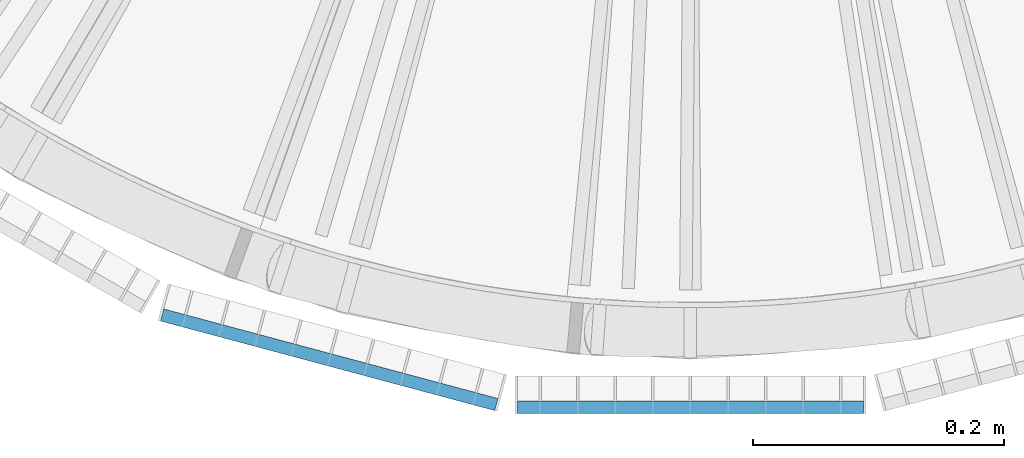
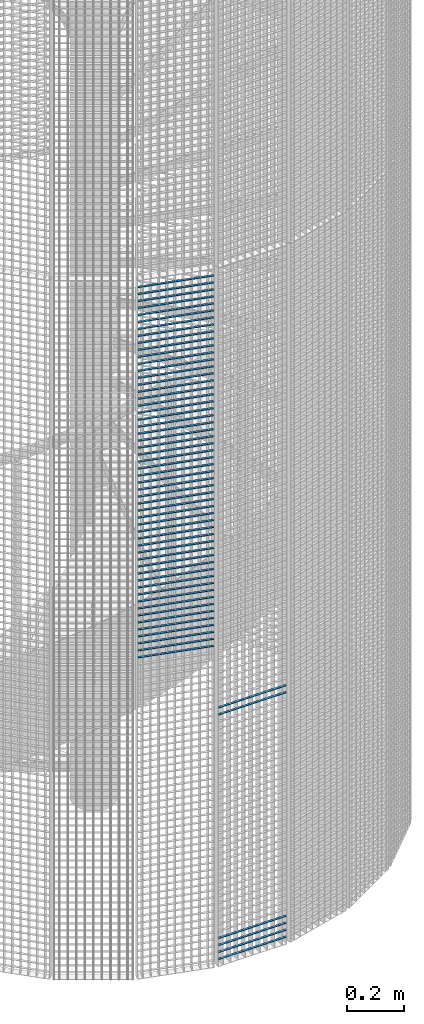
# One storey, part 169 of 1148: 60 beams, 2 elements without a shape of their own.
"""IFC2X3 building model written with IfcOpenShell, lengths in millimetres."""

from ifc_helpers import new_model, si_unit, frame, origin_with_axes, origin_2d_with_axis, place, context, subcontext, project, spatial, rectangle, extrude, material, type_object, element, aggregate, save


model = new_model("IFC2X3")

# Units and contexts
model_context = context("Model", 3, precision=1e-05, world=origin_with_axes())
body_context = subcontext(model_context, "Body", "Model", "MODEL_VIEW")
ifc_project = project(units=[si_unit("LENGTHUNIT", "METRE", prefix="MILLI"), si_unit("AREAUNIT", "SQUARE_METRE"), si_unit("VOLUMEUNIT", "CUBIC_METRE"), si_unit("MASSUNIT", "GRAM", prefix="KILO"), si_unit("TIMEUNIT", "SECOND"), si_unit("PLANEANGLEUNIT", "RADIAN"), si_unit("SOLIDANGLEUNIT", "STERADIAN"), si_unit("THERMODYNAMICTEMPERATUREUNIT", "DEGREE_CELSIUS"), si_unit("LUMINOUSINTENSITYUNIT", "LUMEN")], contexts=[model_context])

# Site, building, storey
site_placement = place(None, origin_with_axes())
site = spatial("IfcSite", under=ifc_project, at=site_placement, Name="Undefined", CompositionType="ELEMENT")
building_placement = place(site_placement, origin_with_axes())
building = spatial("IfcBuilding", under=site, at=building_placement, Name="Undefined", CompositionType="ELEMENT")
storey_placement = place(building_placement, origin_with_axes())
storey = spatial("IfcBuildingStorey", under=building, at=storey_placement, Name="Undefined", CompositionType="ELEMENT", Elevation=0.0)

# Assembly, beams
assembly_1_placement = place(storey_placement, origin_with_axes())
assembly_1 = element("IfcElementAssembly", 1, at=assembly_1_placement, inside=storey, Name="BORDURE", AssemblyPlace="NOTDEFINED", PredefinedType="NOTDEFINED")
ifc_material = material(Name="STEEL/S235JR")
beam_type = type_object("IfcBeamType", Name="PL2*10", PredefinedType="NOTDEFINED")
beam_1_placement = place(assembly_1_placement, frame((-137.996003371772, -1113.47999999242, 119.999999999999), z_axis=(0.0, -1.0, 0.0), x_axis=(1.0, 0.0, 0.0)))
beam_1 = element("IfcBeam", 2, at=beam_1_placement, type_object=beam_type, material=ifc_material, Name="ENTRETOISE", context=body_context, shape_type="SweptSolid", body=[
    extrude(rectangle(XDim=2.0, YDim=10.0, at=origin_2d_with_axis()), frame((275.999999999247, 9.09494701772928e-13, 1.53210777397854e-14), z_axis=(-1.0, 0.0, 0.0), x_axis=(0.0, -1.0, 0.0)), (0.0, 0.0, 1.0), 276.0),
])
beam_2_placement = place(assembly_1_placement, frame((-137.996003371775, -1113.47999999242, 1080.0), z_axis=(0.0, -1.0, 0.0), x_axis=(1.0, 0.0, 0.0)))
beam_2 = element("IfcBeam", 3, at=beam_2_placement, type_object=beam_type, material=ifc_material, Name="ENTRETOISE", context=body_context, shape_type="SweptSolid", body=[
    extrude(rectangle(XDim=2.0, YDim=10.0, at=origin_2d_with_axis()), frame((275.999999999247, 9.09494701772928e-13, 1.53210777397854e-14), z_axis=(-1.0, 0.0, 0.0), x_axis=(0.0, -1.0, 0.0)), (0.0, 0.0, 1.0), 276.0),
])
beam_3_placement = place(assembly_1_placement, frame((-137.996003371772, -1113.47999999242, 89.9999999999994), z_axis=(0.0, -1.0, 0.0), x_axis=(1.0, 0.0, 0.0)))
beam_3 = element("IfcBeam", 4, at=beam_3_placement, type_object=beam_type, material=ifc_material, Name="ENTRETOISE", context=body_context, shape_type="SweptSolid", body=[
    extrude(rectangle(XDim=2.0, YDim=10.0, at=origin_2d_with_axis()), frame((275.999999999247, 9.09494701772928e-13, 1.53210777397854e-14), z_axis=(-1.0, 0.0, 0.0), x_axis=(0.0, -1.0, 0.0)), (0.0, 0.0, 1.0), 276.0),
])
beam_4_placement = place(assembly_1_placement, frame((-137.996003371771, -1113.47999999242, 59.9999999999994), z_axis=(0.0, -1.0, 0.0), x_axis=(1.0, 0.0, 0.0)))
beam_4 = element("IfcBeam", 5, at=beam_4_placement, type_object=beam_type, material=ifc_material, Name="ENTRETOISE", context=body_context, shape_type="SweptSolid", body=[
    extrude(rectangle(XDim=2.0, YDim=10.0, at=origin_2d_with_axis()), frame((275.999999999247, 9.09494701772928e-13, 1.53210777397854e-14), z_axis=(-1.0, 0.0, 0.0), x_axis=(0.0, -1.0, 0.0)), (0.0, 0.0, 1.0), 276.0),
])
beam_5_placement = place(assembly_1_placement, frame((-137.996003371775, -1113.47999999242, 1110.0), z_axis=(0.0, -1.0, 0.0), x_axis=(1.0, 0.0, 0.0)))
beam_5 = element("IfcBeam", 6, at=beam_5_placement, type_object=beam_type, material=ifc_material, Name="ENTRETOISE", context=body_context, shape_type="SweptSolid", body=[
    extrude(rectangle(XDim=2.0, YDim=10.0, at=origin_2d_with_axis()), frame((275.999999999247, 9.09494701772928e-13, 1.53210777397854e-14), z_axis=(-1.0, 0.0, 0.0), x_axis=(0.0, -1.0, 0.0)), (0.0, 0.0, 1.0), 276.0),
])
beam_6_placement = place(assembly_1_placement, frame((-137.99600337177, -1113.47999999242, 29.9999999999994), z_axis=(0.0, -1.0, 0.0), x_axis=(1.0, 0.0, 0.0)))
beam_6 = element("IfcBeam", 7, at=beam_6_placement, type_object=beam_type, material=ifc_material, Name="ENTRETOISE", context=body_context, shape_type="SweptSolid", body=[
    extrude(rectangle(XDim=2.0, YDim=10.0, at=origin_2d_with_axis()), frame((275.999999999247, 9.09494701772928e-13, 1.53210777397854e-14), z_axis=(-1.0, 0.0, 0.0), x_axis=(0.0, -1.0, 0.0)), (0.0, 0.0, 1.0), 276.0),
])
aggregate(assembly_1, [beam_1, beam_2, beam_3, beam_4, beam_5, beam_6])

assembly_2_placement = place(storey_placement, origin_with_axes())
assembly_2 = element("IfcElementAssembly", 8, at=assembly_2_placement, inside=storey, Name="BORDURE", AssemblyPlace="NOTDEFINED", PredefinedType="NOTDEFINED")
beam_7_placement = place(assembly_2_placement, frame((-421.483733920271, -1039.82309522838, 2970.0), z_axis=(-0.258819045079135, -0.965925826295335, 0.0), x_axis=(0.965925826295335, -0.258819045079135, 0.0)))
beam_7 = element("IfcBeam", 9, at=beam_7_placement, type_object=beam_type, material=ifc_material, Name="ENTRETOISE", context=body_context, shape_type="SweptSolid", body=[
    extrude(rectangle(XDim=2.0, YDim=10.0, at=origin_2d_with_axis()), frame((275.999999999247, 9.09494701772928e-13, 1.53210777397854e-14), z_axis=(-1.0, 0.0, 0.0), x_axis=(0.0, -1.0, 0.0)), (0.0, 0.0, 1.0), 276.0),
])
beam_8_placement = place(assembly_2_placement, frame((-421.483733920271, -1039.82309522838, 2940.0), z_axis=(-0.258819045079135, -0.965925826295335, 0.0), x_axis=(0.965925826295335, -0.258819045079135, 0.0)))
beam_8 = element("IfcBeam", 10, at=beam_8_placement, type_object=beam_type, material=ifc_material, Name="ENTRETOISE", context=body_context, shape_type="SweptSolid", body=[
    extrude(rectangle(XDim=2.0, YDim=10.0, at=origin_2d_with_axis()), frame((275.999999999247, 9.09494701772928e-13, 1.53210777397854e-14), z_axis=(-1.0, 0.0, 0.0), x_axis=(0.0, -1.0, 0.0)), (0.0, 0.0, 1.0), 276.0),
])
beam_9_placement = place(assembly_2_placement, frame((-421.483733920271, -1039.82309522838, 2910.0), z_axis=(-0.258819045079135, -0.965925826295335, 0.0), x_axis=(0.965925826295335, -0.258819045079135, 0.0)))
beam_9 = element("IfcBeam", 11, at=beam_9_placement, type_object=beam_type, material=ifc_material, Name="ENTRETOISE", context=body_context, shape_type="SweptSolid", body=[
    extrude(rectangle(XDim=2.0, YDim=10.0, at=origin_2d_with_axis()), frame((275.999999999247, 9.09494701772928e-13, 1.53210777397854e-14), z_axis=(-1.0, 0.0, 0.0), x_axis=(0.0, -1.0, 0.0)), (0.0, 0.0, 1.0), 276.0),
])
beam_10_placement = place(assembly_2_placement, frame((-421.483733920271, -1039.82309522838, 2880.0), z_axis=(-0.258819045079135, -0.965925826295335, 0.0), x_axis=(0.965925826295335, -0.258819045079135, 0.0)))
beam_10 = element("IfcBeam", 12, at=beam_10_placement, type_object=beam_type, material=ifc_material, Name="ENTRETOISE", context=body_context, shape_type="SweptSolid", body=[
    extrude(rectangle(XDim=2.0, YDim=10.0, at=origin_2d_with_axis()), frame((275.999999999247, 9.09494701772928e-13, 1.53210777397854e-14), z_axis=(-1.0, 0.0, 0.0), x_axis=(0.0, -1.0, 0.0)), (0.0, 0.0, 1.0), 276.0),
])
beam_11_placement = place(assembly_2_placement, frame((-421.483733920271, -1039.82309522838, 2850.0), z_axis=(-0.258819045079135, -0.965925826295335, 0.0), x_axis=(0.965925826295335, -0.258819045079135, 0.0)))
beam_11 = element("IfcBeam", 13, at=beam_11_placement, type_object=beam_type, material=ifc_material, Name="ENTRETOISE", context=body_context, shape_type="SweptSolid", body=[
    extrude(rectangle(XDim=2.0, YDim=10.0, at=origin_2d_with_axis()), frame((275.999999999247, 9.09494701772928e-13, 1.53210777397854e-14), z_axis=(-1.0, 0.0, 0.0), x_axis=(0.0, -1.0, 0.0)), (0.0, 0.0, 1.0), 276.0),
])
beam_12_placement = place(assembly_2_placement, frame((-421.483733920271, -1039.82309522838, 2820.0), z_axis=(-0.258819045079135, -0.965925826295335, 0.0), x_axis=(0.965925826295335, -0.258819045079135, 0.0)))
beam_12 = element("IfcBeam", 14, at=beam_12_placement, type_object=beam_type, material=ifc_material, Name="ENTRETOISE", context=body_context, shape_type="SweptSolid", body=[
    extrude(rectangle(XDim=2.0, YDim=10.0, at=origin_2d_with_axis()), frame((275.999999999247, 9.09494701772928e-13, 1.53210777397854e-14), z_axis=(-1.0, 0.0, 0.0), x_axis=(0.0, -1.0, 0.0)), (0.0, 0.0, 1.0), 276.0),
])
beam_13_placement = place(assembly_2_placement, frame((-421.483733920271, -1039.82309522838, 2790.0), z_axis=(-0.258819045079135, -0.965925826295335, 0.0), x_axis=(0.965925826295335, -0.258819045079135, 0.0)))
beam_13 = element("IfcBeam", 15, at=beam_13_placement, type_object=beam_type, material=ifc_material, Name="ENTRETOISE", context=body_context, shape_type="SweptSolid", body=[
    extrude(rectangle(XDim=2.0, YDim=10.0, at=origin_2d_with_axis()), frame((275.999999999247, 9.09494701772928e-13, 1.53210777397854e-14), z_axis=(-1.0, 0.0, 0.0), x_axis=(0.0, -1.0, 0.0)), (0.0, 0.0, 1.0), 276.0),
])
beam_14_placement = place(assembly_2_placement, frame((-421.483733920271, -1039.82309522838, 2760.0), z_axis=(-0.258819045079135, -0.965925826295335, 0.0), x_axis=(0.965925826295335, -0.258819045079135, 0.0)))
beam_14 = element("IfcBeam", 16, at=beam_14_placement, type_object=beam_type, material=ifc_material, Name="ENTRETOISE", context=body_context, shape_type="SweptSolid", body=[
    extrude(rectangle(XDim=2.0, YDim=10.0, at=origin_2d_with_axis()), frame((275.999999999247, 9.09494701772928e-13, 1.53210777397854e-14), z_axis=(-1.0, 0.0, 0.0), x_axis=(0.0, -1.0, 0.0)), (0.0, 0.0, 1.0), 276.0),
])
beam_15_placement = place(assembly_2_placement, frame((-421.483733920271, -1039.82309522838, 2730.0), z_axis=(-0.258819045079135, -0.965925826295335, 0.0), x_axis=(0.965925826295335, -0.258819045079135, 0.0)))
beam_15 = element("IfcBeam", 17, at=beam_15_placement, type_object=beam_type, material=ifc_material, Name="ENTRETOISE", context=body_context, shape_type="SweptSolid", body=[
    extrude(rectangle(XDim=2.0, YDim=10.0, at=origin_2d_with_axis()), frame((275.999999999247, 9.09494701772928e-13, 1.53210777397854e-14), z_axis=(-1.0, 0.0, 0.0), x_axis=(0.0, -1.0, 0.0)), (0.0, 0.0, 1.0), 276.0),
])
beam_16_placement = place(assembly_2_placement, frame((-421.48373392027, -1039.82309522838, 2700.0), z_axis=(-0.258819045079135, -0.965925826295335, 0.0), x_axis=(0.965925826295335, -0.258819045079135, 0.0)))
beam_16 = element("IfcBeam", 18, at=beam_16_placement, type_object=beam_type, material=ifc_material, Name="ENTRETOISE", context=body_context, shape_type="SweptSolid", body=[
    extrude(rectangle(XDim=2.0, YDim=10.0, at=origin_2d_with_axis()), frame((275.999999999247, 9.09494701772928e-13, 1.53210777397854e-14), z_axis=(-1.0, 0.0, 0.0), x_axis=(0.0, -1.0, 0.0)), (0.0, 0.0, 1.0), 276.0),
])
beam_17_placement = place(assembly_2_placement, frame((-421.48373392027, -1039.82309522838, 2670.0), z_axis=(-0.258819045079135, -0.965925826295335, 0.0), x_axis=(0.965925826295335, -0.258819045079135, 0.0)))
beam_17 = element("IfcBeam", 19, at=beam_17_placement, type_object=beam_type, material=ifc_material, Name="ENTRETOISE", context=body_context, shape_type="SweptSolid", body=[
    extrude(rectangle(XDim=2.0, YDim=10.0, at=origin_2d_with_axis()), frame((275.999999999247, 9.09494701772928e-13, 1.53210777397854e-14), z_axis=(-1.0, 0.0, 0.0), x_axis=(0.0, -1.0, 0.0)), (0.0, 0.0, 1.0), 276.0),
])
beam_18_placement = place(assembly_2_placement, frame((-421.48373392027, -1039.82309522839, 2640.0), z_axis=(-0.258819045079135, -0.965925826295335, 0.0), x_axis=(0.965925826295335, -0.258819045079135, 0.0)))
beam_18 = element("IfcBeam", 20, at=beam_18_placement, type_object=beam_type, material=ifc_material, Name="ENTRETOISE", context=body_context, shape_type="SweptSolid", body=[
    extrude(rectangle(XDim=2.0, YDim=10.0, at=origin_2d_with_axis()), frame((275.999999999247, 9.09494701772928e-13, 1.53210777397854e-14), z_axis=(-1.0, 0.0, 0.0), x_axis=(0.0, -1.0, 0.0)), (0.0, 0.0, 1.0), 276.0),
])
beam_19_placement = place(assembly_2_placement, frame((-421.48373392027, -1039.82309522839, 2610.0), z_axis=(-0.258819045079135, -0.965925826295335, 0.0), x_axis=(0.965925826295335, -0.258819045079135, 0.0)))
beam_19 = element("IfcBeam", 21, at=beam_19_placement, type_object=beam_type, material=ifc_material, Name="ENTRETOISE", context=body_context, shape_type="SweptSolid", body=[
    extrude(rectangle(XDim=2.0, YDim=10.0, at=origin_2d_with_axis()), frame((275.999999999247, 9.09494701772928e-13, 1.53210777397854e-14), z_axis=(-1.0, 0.0, 0.0), x_axis=(0.0, -1.0, 0.0)), (0.0, 0.0, 1.0), 276.0),
])
beam_20_placement = place(assembly_2_placement, frame((-421.48373392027, -1039.82309522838, 2580.0), z_axis=(-0.258819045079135, -0.965925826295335, 0.0), x_axis=(0.965925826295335, -0.258819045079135, 0.0)))
beam_20 = element("IfcBeam", 22, at=beam_20_placement, type_object=beam_type, material=ifc_material, Name="ENTRETOISE", context=body_context, shape_type="SweptSolid", body=[
    extrude(rectangle(XDim=2.0, YDim=10.0, at=origin_2d_with_axis()), frame((275.999999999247, 9.09494701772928e-13, 1.53210777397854e-14), z_axis=(-1.0, 0.0, 0.0), x_axis=(0.0, -1.0, 0.0)), (0.0, 0.0, 1.0), 276.0),
])
beam_21_placement = place(assembly_2_placement, frame((-421.48373392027, -1039.82309522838, 2550.0), z_axis=(-0.258819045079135, -0.965925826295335, 0.0), x_axis=(0.965925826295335, -0.258819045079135, 0.0)))
beam_21 = element("IfcBeam", 23, at=beam_21_placement, type_object=beam_type, material=ifc_material, Name="ENTRETOISE", context=body_context, shape_type="SweptSolid", body=[
    extrude(rectangle(XDim=2.0, YDim=10.0, at=origin_2d_with_axis()), frame((275.999999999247, 9.09494701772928e-13, 1.53210777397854e-14), z_axis=(-1.0, 0.0, 0.0), x_axis=(0.0, -1.0, 0.0)), (0.0, 0.0, 1.0), 276.0),
])
beam_22_placement = place(assembly_2_placement, frame((-421.48373392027, -1039.82309522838, 2520.0), z_axis=(-0.258819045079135, -0.965925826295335, 0.0), x_axis=(0.965925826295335, -0.258819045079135, 0.0)))
beam_22 = element("IfcBeam", 24, at=beam_22_placement, type_object=beam_type, material=ifc_material, Name="ENTRETOISE", context=body_context, shape_type="SweptSolid", body=[
    extrude(rectangle(XDim=2.0, YDim=10.0, at=origin_2d_with_axis()), frame((275.999999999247, 9.09494701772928e-13, 1.53210777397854e-14), z_axis=(-1.0, 0.0, 0.0), x_axis=(0.0, -1.0, 0.0)), (0.0, 0.0, 1.0), 276.0),
])
beam_23_placement = place(assembly_2_placement, frame((-421.48373392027, -1039.82309522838, 2490.0), z_axis=(-0.258819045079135, -0.965925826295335, 0.0), x_axis=(0.965925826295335, -0.258819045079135, 0.0)))
beam_23 = element("IfcBeam", 25, at=beam_23_placement, type_object=beam_type, material=ifc_material, Name="ENTRETOISE", context=body_context, shape_type="SweptSolid", body=[
    extrude(rectangle(XDim=2.0, YDim=10.0, at=origin_2d_with_axis()), frame((275.999999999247, 9.09494701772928e-13, 1.53210777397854e-14), z_axis=(-1.0, 0.0, 0.0), x_axis=(0.0, -1.0, 0.0)), (0.0, 0.0, 1.0), 276.0),
])
beam_24_placement = place(assembly_2_placement, frame((-421.48373392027, -1039.82309522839, 2460.0), z_axis=(-0.258819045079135, -0.965925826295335, 0.0), x_axis=(0.965925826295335, -0.258819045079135, 0.0)))
beam_24 = element("IfcBeam", 26, at=beam_24_placement, type_object=beam_type, material=ifc_material, Name="ENTRETOISE", context=body_context, shape_type="SweptSolid", body=[
    extrude(rectangle(XDim=2.0, YDim=10.0, at=origin_2d_with_axis()), frame((275.999999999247, 9.09494701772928e-13, 1.53210777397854e-14), z_axis=(-1.0, 0.0, 0.0), x_axis=(0.0, -1.0, 0.0)), (0.0, 0.0, 1.0), 276.0),
])
beam_25_placement = place(assembly_2_placement, frame((-421.48373392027, -1039.82309522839, 2430.0), z_axis=(-0.258819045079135, -0.965925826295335, 0.0), x_axis=(0.965925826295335, -0.258819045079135, 0.0)))
beam_25 = element("IfcBeam", 27, at=beam_25_placement, type_object=beam_type, material=ifc_material, Name="ENTRETOISE", context=body_context, shape_type="SweptSolid", body=[
    extrude(rectangle(XDim=2.0, YDim=10.0, at=origin_2d_with_axis()), frame((275.999999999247, 9.09494701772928e-13, 1.53210777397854e-14), z_axis=(-1.0, 0.0, 0.0), x_axis=(0.0, -1.0, 0.0)), (0.0, 0.0, 1.0), 276.0),
])
beam_26_placement = place(assembly_2_placement, frame((-421.483733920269, -1039.82309522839, 2400.0), z_axis=(-0.258819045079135, -0.965925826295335, 0.0), x_axis=(0.965925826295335, -0.258819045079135, 0.0)))
beam_26 = element("IfcBeam", 28, at=beam_26_placement, type_object=beam_type, material=ifc_material, Name="ENTRETOISE", context=body_context, shape_type="SweptSolid", body=[
    extrude(rectangle(XDim=2.0, YDim=10.0, at=origin_2d_with_axis()), frame((275.999999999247, 9.09494701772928e-13, 1.53210777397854e-14), z_axis=(-1.0, 0.0, 0.0), x_axis=(0.0, -1.0, 0.0)), (0.0, 0.0, 1.0), 276.0),
])
beam_27_placement = place(assembly_2_placement, frame((-421.483733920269, -1039.82309522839, 2370.0), z_axis=(-0.258819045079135, -0.965925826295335, 0.0), x_axis=(0.965925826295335, -0.258819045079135, 0.0)))
beam_27 = element("IfcBeam", 29, at=beam_27_placement, type_object=beam_type, material=ifc_material, Name="ENTRETOISE", context=body_context, shape_type="SweptSolid", body=[
    extrude(rectangle(XDim=2.0, YDim=10.0, at=origin_2d_with_axis()), frame((275.999999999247, 9.09494701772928e-13, 1.53210777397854e-14), z_axis=(-1.0, 0.0, 0.0), x_axis=(0.0, -1.0, 0.0)), (0.0, 0.0, 1.0), 276.0),
])
beam_28_placement = place(assembly_2_placement, frame((-421.483733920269, -1039.82309522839, 2340.0), z_axis=(-0.258819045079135, -0.965925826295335, 0.0), x_axis=(0.965925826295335, -0.258819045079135, 0.0)))
beam_28 = element("IfcBeam", 30, at=beam_28_placement, type_object=beam_type, material=ifc_material, Name="ENTRETOISE", context=body_context, shape_type="SweptSolid", body=[
    extrude(rectangle(XDim=2.0, YDim=10.0, at=origin_2d_with_axis()), frame((275.999999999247, 9.09494701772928e-13, 1.53210777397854e-14), z_axis=(-1.0, 0.0, 0.0), x_axis=(0.0, -1.0, 0.0)), (0.0, 0.0, 1.0), 276.0),
])
beam_29_placement = place(assembly_2_placement, frame((-421.483733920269, -1039.82309522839, 2310.0), z_axis=(-0.258819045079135, -0.965925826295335, 0.0), x_axis=(0.965925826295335, -0.258819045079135, 0.0)))
beam_29 = element("IfcBeam", 31, at=beam_29_placement, type_object=beam_type, material=ifc_material, Name="ENTRETOISE", context=body_context, shape_type="SweptSolid", body=[
    extrude(rectangle(XDim=2.0, YDim=10.0, at=origin_2d_with_axis()), frame((275.999999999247, 9.09494701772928e-13, 1.53210777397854e-14), z_axis=(-1.0, 0.0, 0.0), x_axis=(0.0, -1.0, 0.0)), (0.0, 0.0, 1.0), 276.0),
])
beam_30_placement = place(assembly_2_placement, frame((-421.483733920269, -1039.82309522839, 2280.0), z_axis=(-0.258819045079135, -0.965925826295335, 0.0), x_axis=(0.965925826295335, -0.258819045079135, 0.0)))
beam_30 = element("IfcBeam", 32, at=beam_30_placement, type_object=beam_type, material=ifc_material, Name="ENTRETOISE", context=body_context, shape_type="SweptSolid", body=[
    extrude(rectangle(XDim=2.0, YDim=10.0, at=origin_2d_with_axis()), frame((275.999999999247, 9.09494701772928e-13, 1.53210777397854e-14), z_axis=(-1.0, 0.0, 0.0), x_axis=(0.0, -1.0, 0.0)), (0.0, 0.0, 1.0), 276.0),
])
beam_31_placement = place(assembly_2_placement, frame((-421.483733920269, -1039.82309522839, 2250.0), z_axis=(-0.258819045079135, -0.965925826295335, 0.0), x_axis=(0.965925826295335, -0.258819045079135, 0.0)))
beam_31 = element("IfcBeam", 33, at=beam_31_placement, type_object=beam_type, material=ifc_material, Name="ENTRETOISE", context=body_context, shape_type="SweptSolid", body=[
    extrude(rectangle(XDim=2.0, YDim=10.0, at=origin_2d_with_axis()), frame((275.999999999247, 9.09494701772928e-13, 1.53210777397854e-14), z_axis=(-1.0, 0.0, 0.0), x_axis=(0.0, -1.0, 0.0)), (0.0, 0.0, 1.0), 276.0),
])
beam_32_placement = place(assembly_2_placement, frame((-421.483733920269, -1039.82309522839, 2220.0), z_axis=(-0.258819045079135, -0.965925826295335, 0.0), x_axis=(0.965925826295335, -0.258819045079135, 0.0)))
beam_32 = element("IfcBeam", 34, at=beam_32_placement, type_object=beam_type, material=ifc_material, Name="ENTRETOISE", context=body_context, shape_type="SweptSolid", body=[
    extrude(rectangle(XDim=2.0, YDim=10.0, at=origin_2d_with_axis()), frame((275.999999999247, 9.09494701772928e-13, 1.53210777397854e-14), z_axis=(-1.0, 0.0, 0.0), x_axis=(0.0, -1.0, 0.0)), (0.0, 0.0, 1.0), 276.0),
])
beam_33_placement = place(assembly_2_placement, frame((-421.483733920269, -1039.82309522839, 2190.0), z_axis=(-0.258819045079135, -0.965925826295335, 0.0), x_axis=(0.965925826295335, -0.258819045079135, 0.0)))
beam_33 = element("IfcBeam", 35, at=beam_33_placement, type_object=beam_type, material=ifc_material, Name="ENTRETOISE", context=body_context, shape_type="SweptSolid", body=[
    extrude(rectangle(XDim=2.0, YDim=10.0, at=origin_2d_with_axis()), frame((275.999999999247, 9.09494701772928e-13, 1.53210777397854e-14), z_axis=(-1.0, 0.0, 0.0), x_axis=(0.0, -1.0, 0.0)), (0.0, 0.0, 1.0), 276.0),
])
beam_34_placement = place(assembly_2_placement, frame((-421.483733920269, -1039.82309522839, 2160.0), z_axis=(-0.258819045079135, -0.965925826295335, 0.0), x_axis=(0.965925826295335, -0.258819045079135, 0.0)))
beam_34 = element("IfcBeam", 36, at=beam_34_placement, type_object=beam_type, material=ifc_material, Name="ENTRETOISE", context=body_context, shape_type="SweptSolid", body=[
    extrude(rectangle(XDim=2.0, YDim=10.0, at=origin_2d_with_axis()), frame((275.999999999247, 9.09494701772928e-13, 1.53210777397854e-14), z_axis=(-1.0, 0.0, 0.0), x_axis=(0.0, -1.0, 0.0)), (0.0, 0.0, 1.0), 276.0),
])
beam_35_placement = place(assembly_2_placement, frame((-421.483733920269, -1039.82309522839, 2130.0), z_axis=(-0.258819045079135, -0.965925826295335, 0.0), x_axis=(0.965925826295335, -0.258819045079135, 0.0)))
beam_35 = element("IfcBeam", 37, at=beam_35_placement, type_object=beam_type, material=ifc_material, Name="ENTRETOISE", context=body_context, shape_type="SweptSolid", body=[
    extrude(rectangle(XDim=2.0, YDim=10.0, at=origin_2d_with_axis()), frame((275.999999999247, 9.09494701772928e-13, 1.53210777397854e-14), z_axis=(-1.0, 0.0, 0.0), x_axis=(0.0, -1.0, 0.0)), (0.0, 0.0, 1.0), 276.0),
])
beam_36_placement = place(assembly_2_placement, frame((-421.483733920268, -1039.82309522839, 2100.0), z_axis=(-0.258819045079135, -0.965925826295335, 0.0), x_axis=(0.965925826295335, -0.258819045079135, 0.0)))
beam_36 = element("IfcBeam", 38, at=beam_36_placement, type_object=beam_type, material=ifc_material, Name="ENTRETOISE", context=body_context, shape_type="SweptSolid", body=[
    extrude(rectangle(XDim=2.0, YDim=10.0, at=origin_2d_with_axis()), frame((275.999999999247, 9.09494701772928e-13, 1.53210777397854e-14), z_axis=(-1.0, 0.0, 0.0), x_axis=(0.0, -1.0, 0.0)), (0.0, 0.0, 1.0), 276.0),
])
beam_37_placement = place(assembly_2_placement, frame((-421.483733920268, -1039.82309522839, 2070.0), z_axis=(-0.258819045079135, -0.965925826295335, 0.0), x_axis=(0.965925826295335, -0.258819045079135, 0.0)))
beam_37 = element("IfcBeam", 39, at=beam_37_placement, type_object=beam_type, material=ifc_material, Name="ENTRETOISE", context=body_context, shape_type="SweptSolid", body=[
    extrude(rectangle(XDim=2.0, YDim=10.0, at=origin_2d_with_axis()), frame((275.999999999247, 9.09494701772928e-13, 1.53210777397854e-14), z_axis=(-1.0, 0.0, 0.0), x_axis=(0.0, -1.0, 0.0)), (0.0, 0.0, 1.0), 276.0),
])
beam_38_placement = place(assembly_2_placement, frame((-421.483733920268, -1039.82309522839, 2040.0), z_axis=(-0.258819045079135, -0.965925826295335, 0.0), x_axis=(0.965925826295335, -0.258819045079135, 0.0)))
beam_38 = element("IfcBeam", 40, at=beam_38_placement, type_object=beam_type, material=ifc_material, Name="ENTRETOISE", context=body_context, shape_type="SweptSolid", body=[
    extrude(rectangle(XDim=2.0, YDim=10.0, at=origin_2d_with_axis()), frame((275.999999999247, 9.09494701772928e-13, 1.53210777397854e-14), z_axis=(-1.0, 0.0, 0.0), x_axis=(0.0, -1.0, 0.0)), (0.0, 0.0, 1.0), 276.0),
])
beam_39_placement = place(assembly_2_placement, frame((-421.483733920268, -1039.82309522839, 2010.0), z_axis=(-0.258819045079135, -0.965925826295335, 0.0), x_axis=(0.965925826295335, -0.258819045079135, 0.0)))
beam_39 = element("IfcBeam", 41, at=beam_39_placement, type_object=beam_type, material=ifc_material, Name="ENTRETOISE", context=body_context, shape_type="SweptSolid", body=[
    extrude(rectangle(XDim=2.0, YDim=10.0, at=origin_2d_with_axis()), frame((275.999999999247, 9.09494701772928e-13, 1.53210777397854e-14), z_axis=(-1.0, 0.0, 0.0), x_axis=(0.0, -1.0, 0.0)), (0.0, 0.0, 1.0), 276.0),
])
beam_40_placement = place(assembly_2_placement, frame((-421.483733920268, -1039.82309522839, 1980.0), z_axis=(-0.258819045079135, -0.965925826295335, 0.0), x_axis=(0.965925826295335, -0.258819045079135, 0.0)))
beam_40 = element("IfcBeam", 42, at=beam_40_placement, type_object=beam_type, material=ifc_material, Name="ENTRETOISE", context=body_context, shape_type="SweptSolid", body=[
    extrude(rectangle(XDim=2.0, YDim=10.0, at=origin_2d_with_axis()), frame((275.999999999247, 9.09494701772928e-13, 1.53210777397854e-14), z_axis=(-1.0, 0.0, 0.0), x_axis=(0.0, -1.0, 0.0)), (0.0, 0.0, 1.0), 276.0),
])
beam_41_placement = place(assembly_2_placement, frame((-421.483733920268, -1039.82309522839, 1950.0), z_axis=(-0.258819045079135, -0.965925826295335, 0.0), x_axis=(0.965925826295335, -0.258819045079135, 0.0)))
beam_41 = element("IfcBeam", 43, at=beam_41_placement, type_object=beam_type, material=ifc_material, Name="ENTRETOISE", context=body_context, shape_type="SweptSolid", body=[
    extrude(rectangle(XDim=2.0, YDim=10.0, at=origin_2d_with_axis()), frame((275.999999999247, 9.09494701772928e-13, 1.53210777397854e-14), z_axis=(-1.0, 0.0, 0.0), x_axis=(0.0, -1.0, 0.0)), (0.0, 0.0, 1.0), 276.0),
])
beam_42_placement = place(assembly_2_placement, frame((-421.483733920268, -1039.82309522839, 1920.0), z_axis=(-0.258819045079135, -0.965925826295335, 0.0), x_axis=(0.965925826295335, -0.258819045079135, 0.0)))
beam_42 = element("IfcBeam", 44, at=beam_42_placement, type_object=beam_type, material=ifc_material, Name="ENTRETOISE", context=body_context, shape_type="SweptSolid", body=[
    extrude(rectangle(XDim=2.0, YDim=10.0, at=origin_2d_with_axis()), frame((275.999999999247, 9.09494701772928e-13, 1.53210777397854e-14), z_axis=(-1.0, 0.0, 0.0), x_axis=(0.0, -1.0, 0.0)), (0.0, 0.0, 1.0), 276.0),
])
beam_43_placement = place(assembly_2_placement, frame((-421.483733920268, -1039.82309522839, 1890.0), z_axis=(-0.258819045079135, -0.965925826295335, 0.0), x_axis=(0.965925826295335, -0.258819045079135, 0.0)))
beam_43 = element("IfcBeam", 45, at=beam_43_placement, type_object=beam_type, material=ifc_material, Name="ENTRETOISE", context=body_context, shape_type="SweptSolid", body=[
    extrude(rectangle(XDim=2.0, YDim=10.0, at=origin_2d_with_axis()), frame((275.999999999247, 9.09494701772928e-13, 1.53210777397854e-14), z_axis=(-1.0, 0.0, 0.0), x_axis=(0.0, -1.0, 0.0)), (0.0, 0.0, 1.0), 276.0),
])
beam_44_placement = place(assembly_2_placement, frame((-421.483733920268, -1039.82309522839, 1860.0), z_axis=(-0.258819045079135, -0.965925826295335, 0.0), x_axis=(0.965925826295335, -0.258819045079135, 0.0)))
beam_44 = element("IfcBeam", 46, at=beam_44_placement, type_object=beam_type, material=ifc_material, Name="ENTRETOISE", context=body_context, shape_type="SweptSolid", body=[
    extrude(rectangle(XDim=2.0, YDim=10.0, at=origin_2d_with_axis()), frame((275.999999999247, 9.09494701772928e-13, 1.53210777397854e-14), z_axis=(-1.0, 0.0, 0.0), x_axis=(0.0, -1.0, 0.0)), (0.0, 0.0, 1.0), 276.0),
])
beam_45_placement = place(assembly_2_placement, frame((-421.483733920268, -1039.82309522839, 1830.0), z_axis=(-0.258819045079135, -0.965925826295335, 0.0), x_axis=(0.965925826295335, -0.258819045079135, 0.0)))
beam_45 = element("IfcBeam", 47, at=beam_45_placement, type_object=beam_type, material=ifc_material, Name="ENTRETOISE", context=body_context, shape_type="SweptSolid", body=[
    extrude(rectangle(XDim=2.0, YDim=10.0, at=origin_2d_with_axis()), frame((275.999999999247, 9.09494701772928e-13, 1.53210777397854e-14), z_axis=(-1.0, 0.0, 0.0), x_axis=(0.0, -1.0, 0.0)), (0.0, 0.0, 1.0), 276.0),
])
beam_46_placement = place(assembly_2_placement, frame((-421.483733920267, -1039.82309522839, 1800.0), z_axis=(-0.258819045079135, -0.965925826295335, 0.0), x_axis=(0.965925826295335, -0.258819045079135, 0.0)))
beam_46 = element("IfcBeam", 48, at=beam_46_placement, type_object=beam_type, material=ifc_material, Name="ENTRETOISE", context=body_context, shape_type="SweptSolid", body=[
    extrude(rectangle(XDim=2.0, YDim=10.0, at=origin_2d_with_axis()), frame((275.999999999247, 9.09494701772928e-13, 1.53210777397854e-14), z_axis=(-1.0, 0.0, 0.0), x_axis=(0.0, -1.0, 0.0)), (0.0, 0.0, 1.0), 276.0),
])
beam_47_placement = place(assembly_2_placement, frame((-421.483733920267, -1039.82309522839, 1770.0), z_axis=(-0.258819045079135, -0.965925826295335, 0.0), x_axis=(0.965925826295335, -0.258819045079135, 0.0)))
beam_47 = element("IfcBeam", 49, at=beam_47_placement, type_object=beam_type, material=ifc_material, Name="ENTRETOISE", context=body_context, shape_type="SweptSolid", body=[
    extrude(rectangle(XDim=2.0, YDim=10.0, at=origin_2d_with_axis()), frame((275.999999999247, 9.09494701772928e-13, 1.53210777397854e-14), z_axis=(-1.0, 0.0, 0.0), x_axis=(0.0, -1.0, 0.0)), (0.0, 0.0, 1.0), 276.0),
])
beam_48_placement = place(assembly_2_placement, frame((-421.483733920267, -1039.82309522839, 1740.0), z_axis=(-0.258819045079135, -0.965925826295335, 0.0), x_axis=(0.965925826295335, -0.258819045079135, 0.0)))
beam_48 = element("IfcBeam", 50, at=beam_48_placement, type_object=beam_type, material=ifc_material, Name="ENTRETOISE", context=body_context, shape_type="SweptSolid", body=[
    extrude(rectangle(XDim=2.0, YDim=10.0, at=origin_2d_with_axis()), frame((275.999999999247, 9.09494701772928e-13, 1.53210777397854e-14), z_axis=(-1.0, 0.0, 0.0), x_axis=(0.0, -1.0, 0.0)), (0.0, 0.0, 1.0), 276.0),
])
beam_49_placement = place(assembly_2_placement, frame((-421.483733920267, -1039.82309522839, 1710.0), z_axis=(-0.258819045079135, -0.965925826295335, 0.0), x_axis=(0.965925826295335, -0.258819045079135, 0.0)))
beam_49 = element("IfcBeam", 51, at=beam_49_placement, type_object=beam_type, material=ifc_material, Name="ENTRETOISE", context=body_context, shape_type="SweptSolid", body=[
    extrude(rectangle(XDim=2.0, YDim=10.0, at=origin_2d_with_axis()), frame((275.999999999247, 9.09494701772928e-13, 1.53210777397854e-14), z_axis=(-1.0, 0.0, 0.0), x_axis=(0.0, -1.0, 0.0)), (0.0, 0.0, 1.0), 276.0),
])
beam_50_placement = place(assembly_2_placement, frame((-421.483733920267, -1039.82309522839, 1680.0), z_axis=(-0.258819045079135, -0.965925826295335, 0.0), x_axis=(0.965925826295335, -0.258819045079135, 0.0)))
beam_50 = element("IfcBeam", 52, at=beam_50_placement, type_object=beam_type, material=ifc_material, Name="ENTRETOISE", context=body_context, shape_type="SweptSolid", body=[
    extrude(rectangle(XDim=2.0, YDim=10.0, at=origin_2d_with_axis()), frame((275.999999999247, 9.09494701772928e-13, 1.53210777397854e-14), z_axis=(-1.0, 0.0, 0.0), x_axis=(0.0, -1.0, 0.0)), (0.0, 0.0, 1.0), 276.0),
])
beam_51_placement = place(assembly_2_placement, frame((-421.483733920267, -1039.82309522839, 1650.0), z_axis=(-0.258819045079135, -0.965925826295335, 0.0), x_axis=(0.965925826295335, -0.258819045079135, 0.0)))
beam_51 = element("IfcBeam", 53, at=beam_51_placement, type_object=beam_type, material=ifc_material, Name="ENTRETOISE", context=body_context, shape_type="SweptSolid", body=[
    extrude(rectangle(XDim=2.0, YDim=10.0, at=origin_2d_with_axis()), frame((275.999999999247, 9.09494701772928e-13, 1.53210777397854e-14), z_axis=(-1.0, 0.0, 0.0), x_axis=(0.0, -1.0, 0.0)), (0.0, 0.0, 1.0), 276.0),
])
beam_52_placement = place(assembly_2_placement, frame((-421.483733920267, -1039.82309522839, 1620.0), z_axis=(-0.258819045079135, -0.965925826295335, 0.0), x_axis=(0.965925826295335, -0.258819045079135, 0.0)))
beam_52 = element("IfcBeam", 54, at=beam_52_placement, type_object=beam_type, material=ifc_material, Name="ENTRETOISE", context=body_context, shape_type="SweptSolid", body=[
    extrude(rectangle(XDim=2.0, YDim=10.0, at=origin_2d_with_axis()), frame((275.999999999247, 9.09494701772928e-13, 1.53210777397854e-14), z_axis=(-1.0, 0.0, 0.0), x_axis=(0.0, -1.0, 0.0)), (0.0, 0.0, 1.0), 276.0),
])
beam_53_placement = place(assembly_2_placement, frame((-421.483733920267, -1039.82309522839, 1590.0), z_axis=(-0.258819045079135, -0.965925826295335, 0.0), x_axis=(0.965925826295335, -0.258819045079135, 0.0)))
beam_53 = element("IfcBeam", 55, at=beam_53_placement, type_object=beam_type, material=ifc_material, Name="ENTRETOISE", context=body_context, shape_type="SweptSolid", body=[
    extrude(rectangle(XDim=2.0, YDim=10.0, at=origin_2d_with_axis()), frame((275.999999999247, 9.09494701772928e-13, 1.53210777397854e-14), z_axis=(-1.0, 0.0, 0.0), x_axis=(0.0, -1.0, 0.0)), (0.0, 0.0, 1.0), 276.0),
])
beam_54_placement = place(assembly_2_placement, frame((-421.483733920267, -1039.82309522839, 1560.0), z_axis=(-0.258819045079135, -0.965925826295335, 0.0), x_axis=(0.965925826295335, -0.258819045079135, 0.0)))
beam_54 = element("IfcBeam", 56, at=beam_54_placement, type_object=beam_type, material=ifc_material, Name="ENTRETOISE", context=body_context, shape_type="SweptSolid", body=[
    extrude(rectangle(XDim=2.0, YDim=10.0, at=origin_2d_with_axis()), frame((275.999999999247, 9.09494701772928e-13, 1.53210777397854e-14), z_axis=(-1.0, 0.0, 0.0), x_axis=(0.0, -1.0, 0.0)), (0.0, 0.0, 1.0), 276.0),
])
beam_55_placement = place(assembly_2_placement, frame((-421.483733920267, -1039.82309522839, 1530.0), z_axis=(-0.258819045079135, -0.965925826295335, 0.0), x_axis=(0.965925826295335, -0.258819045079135, 0.0)))
beam_55 = element("IfcBeam", 57, at=beam_55_placement, type_object=beam_type, material=ifc_material, Name="ENTRETOISE", context=body_context, shape_type="SweptSolid", body=[
    extrude(rectangle(XDim=2.0, YDim=10.0, at=origin_2d_with_axis()), frame((275.999999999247, 9.09494701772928e-13, 1.53210777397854e-14), z_axis=(-1.0, 0.0, 0.0), x_axis=(0.0, -1.0, 0.0)), (0.0, 0.0, 1.0), 276.0),
])
beam_56_placement = place(assembly_2_placement, frame((-421.483733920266, -1039.82309522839, 1500.0), z_axis=(-0.258819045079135, -0.965925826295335, 0.0), x_axis=(0.965925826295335, -0.258819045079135, 0.0)))
beam_56 = element("IfcBeam", 58, at=beam_56_placement, type_object=beam_type, material=ifc_material, Name="ENTRETOISE", context=body_context, shape_type="SweptSolid", body=[
    extrude(rectangle(XDim=2.0, YDim=10.0, at=origin_2d_with_axis()), frame((275.999999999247, 9.09494701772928e-13, 1.53210777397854e-14), z_axis=(-1.0, 0.0, 0.0), x_axis=(0.0, -1.0, 0.0)), (0.0, 0.0, 1.0), 276.0),
])
beam_57_placement = place(assembly_2_placement, frame((-421.483733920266, -1039.82309522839, 1470.0), z_axis=(-0.258819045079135, -0.965925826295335, 0.0), x_axis=(0.965925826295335, -0.258819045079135, 0.0)))
beam_57 = element("IfcBeam", 59, at=beam_57_placement, type_object=beam_type, material=ifc_material, Name="ENTRETOISE", context=body_context, shape_type="SweptSolid", body=[
    extrude(rectangle(XDim=2.0, YDim=10.0, at=origin_2d_with_axis()), frame((275.999999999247, 9.09494701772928e-13, 1.53210777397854e-14), z_axis=(-1.0, 0.0, 0.0), x_axis=(0.0, -1.0, 0.0)), (0.0, 0.0, 1.0), 276.0),
])
beam_58_placement = place(assembly_2_placement, frame((-421.483733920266, -1039.82309522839, 1440.0), z_axis=(-0.258819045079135, -0.965925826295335, 0.0), x_axis=(0.965925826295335, -0.258819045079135, 0.0)))
beam_58 = element("IfcBeam", 60, at=beam_58_placement, type_object=beam_type, material=ifc_material, Name="ENTRETOISE", context=body_context, shape_type="SweptSolid", body=[
    extrude(rectangle(XDim=2.0, YDim=10.0, at=origin_2d_with_axis()), frame((275.999999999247, 9.09494701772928e-13, 1.53210777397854e-14), z_axis=(-1.0, 0.0, 0.0), x_axis=(0.0, -1.0, 0.0)), (0.0, 0.0, 1.0), 276.0),
])
beam_59_placement = place(assembly_2_placement, frame((-421.483733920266, -1039.82309522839, 1410.0), z_axis=(-0.258819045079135, -0.965925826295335, 0.0), x_axis=(0.965925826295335, -0.258819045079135, 0.0)))
beam_59 = element("IfcBeam", 61, at=beam_59_placement, type_object=beam_type, material=ifc_material, Name="ENTRETOISE", context=body_context, shape_type="SweptSolid", body=[
    extrude(rectangle(XDim=2.0, YDim=10.0, at=origin_2d_with_axis()), frame((275.999999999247, 9.09494701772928e-13, 1.53210777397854e-14), z_axis=(-1.0, 0.0, 0.0), x_axis=(0.0, -1.0, 0.0)), (0.0, 0.0, 1.0), 276.0),
])
beam_60_placement = place(assembly_2_placement, frame((-421.483733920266, -1039.82309522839, 1380.0), z_axis=(-0.258819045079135, -0.965925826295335, 0.0), x_axis=(0.965925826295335, -0.258819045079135, 0.0)))
beam_60 = element("IfcBeam", 62, at=beam_60_placement, type_object=beam_type, material=ifc_material, Name="ENTRETOISE", context=body_context, shape_type="SweptSolid", body=[
    extrude(rectangle(XDim=2.0, YDim=10.0, at=origin_2d_with_axis()), frame((275.999999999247, 9.09494701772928e-13, 1.53210777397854e-14), z_axis=(-1.0, 0.0, 0.0), x_axis=(0.0, -1.0, 0.0)), (0.0, 0.0, 1.0), 276.0),
])
aggregate(assembly_2, [beam_7, beam_8, beam_9, beam_10, beam_11, beam_12, beam_13, beam_14, beam_15, beam_16, beam_17, beam_18, beam_19, beam_20, beam_21, beam_22, beam_23, beam_24, beam_25, beam_26, beam_27, beam_28, beam_29, beam_30, beam_31, beam_32, beam_33, beam_34, beam_35, beam_36, beam_37, beam_38, beam_39, beam_40, beam_41, beam_42, beam_43, beam_44, beam_45, beam_46, beam_47, beam_48, beam_49, beam_50, beam_51, beam_52, beam_53, beam_54, beam_55, beam_56, beam_57, beam_58, beam_59, beam_60])

save(model, "model.ifc")
